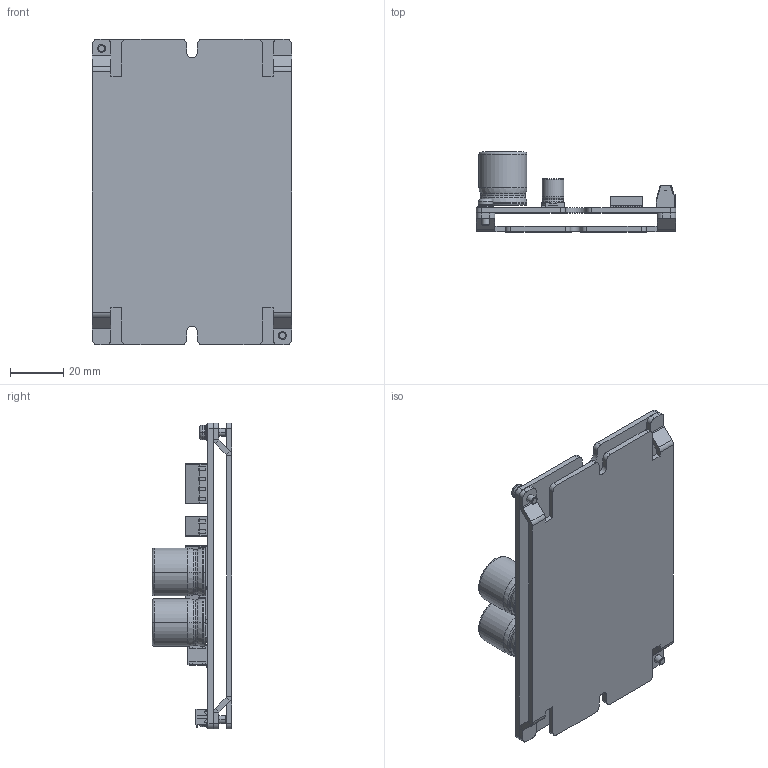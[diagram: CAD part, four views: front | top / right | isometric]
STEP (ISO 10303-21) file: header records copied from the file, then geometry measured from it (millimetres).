
FILE_DESCRIPTION (( 'STEP AP214' ), '1' );
FILE_NAME ('BB組立.STEP', '2021-12-22T02:09:10', ( '' ), ( '' ), 'SwSTEP 2.0', 'SolidWorks 2018', '' );
FILE_SCHEMA (( 'AUTOMOTIVE_DESIGN' ));
Length unit declared in the file: millimetre
Products named in the file (1): BB組立
Bounding box: 75 x 30 x 115 mm (x, y, z)
Surface area: 42037.7 mm2 (no closed solid volume)
Topology: 0 solids, 71 shells, 1077 faces, 3270 edges, 2149 vertices
Faces by surface type: plane 737, cylinder 262, torus 64, cone 14
Entity records: 47286 total; most frequent: CARTESIAN_POINT 6962, DIRECTION 5835, ORIENTED_EDGE 5342, EDGE_CURVE 3270, LINE 2551, VECTOR 2551, VERTEX_POINT 2149, AXIS2_PLACEMENT_3D 1642
